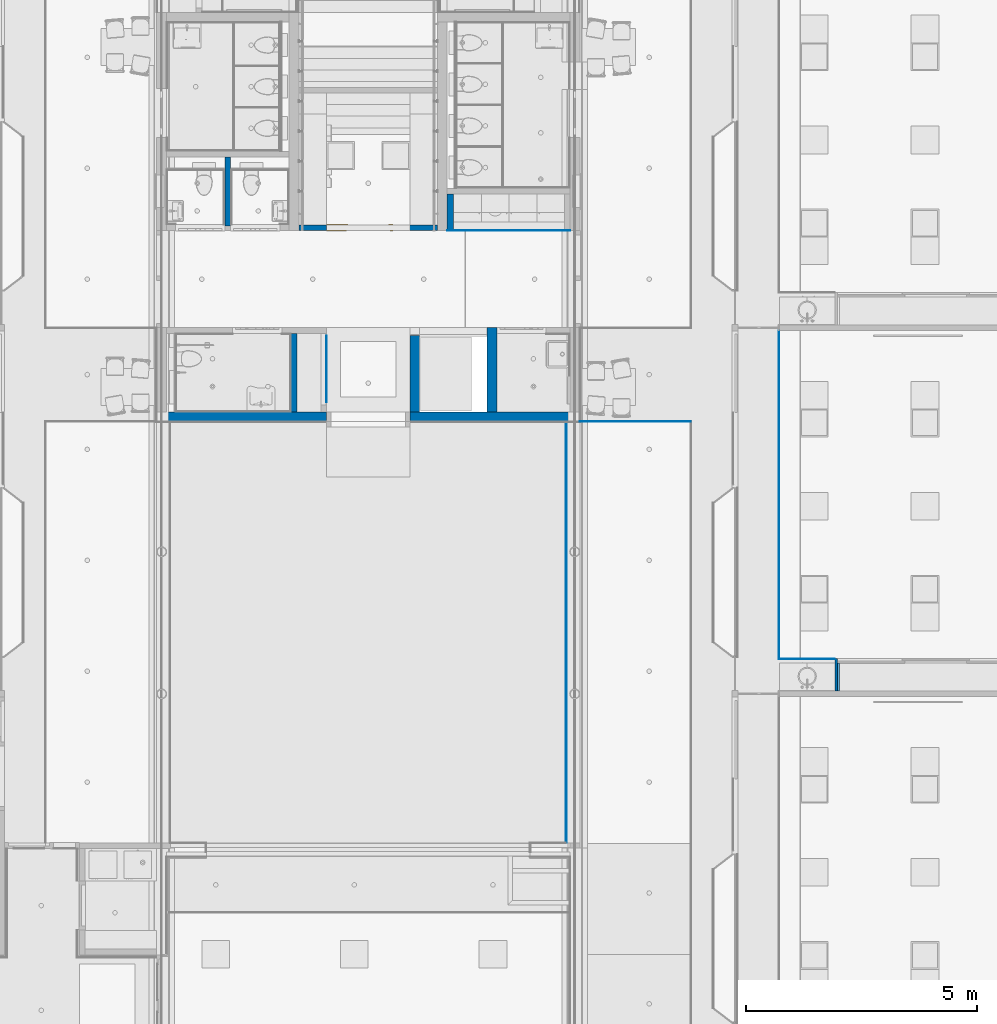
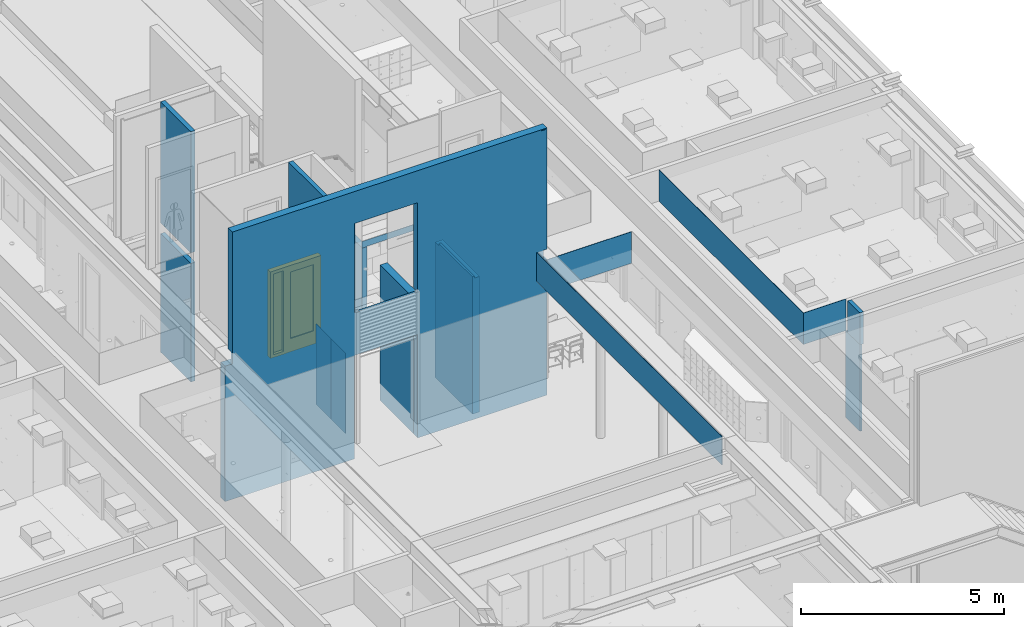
# One storey, part 75 of 347: 16 walls, 1 door, 3 openings.
"""IFC2X3 building model written with IfcOpenShell, lengths in millimetres."""

from ifc_helpers import new_model, entity, si_unit, converted_unit, derived_unit, money_unit, direction, frame, origin_with_axes, place, context, subcontext, project, spatial, open_shell, faceted_brep, surface_model, material, type_object, element, fill, save


model = new_model("IFC2X3")

# Units and contexts
model_context = context("Model", 3, precision=0.01, world=origin_with_axes(), true_north=direction((0.0, 1.0)))
plan_context = context("Plan", 3, precision=0.01, world=origin_with_axes(), true_north=direction((0.0, 1.0)))
body_context = subcontext(model_context, "Body", "Model", "MODEL_VIEW")
ifc_project = project(units=[si_unit("LENGTHUNIT", "METRE", prefix="MILLI"), si_unit("AREAUNIT", "SQUARE_METRE"), si_unit("VOLUMEUNIT", "CUBIC_METRE"), converted_unit("PLANEANGLEUNIT", "DEGREE", entity("IfcPlaneAngleMeasure", 0.0174532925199), si_unit("PLANEANGLEUNIT", "RADIAN"), dimensions=[0, 0, 0, 0, 0, 0, 0]), money_unit("EUR"), converted_unit("TIMEUNIT", "Year", entity("IfcTimeMeasure", 31556926.0), si_unit("TIMEUNIT", "SECOND"), dimensions=[0, 0, 1, 0, 0, 0, 0]), si_unit("MASSUNIT", "GRAM", prefix="KILO"), si_unit("THERMODYNAMICTEMPERATUREUNIT", "DEGREE_CELSIUS"), si_unit("LUMINOUSINTENSITYUNIT", "LUMEN"), si_unit("ENERGYUNIT", "JOULE", prefix="MEGA"), derived_unit("THERMALCONDUCTANCEUNIT", [(si_unit("POWERUNIT", "WATT"), 1), (si_unit("LENGTHUNIT", "METRE"), -1), (si_unit("THERMODYNAMICTEMPERATUREUNIT", "KELVIN"), -1)]), derived_unit("SPECIFICHEATCAPACITYUNIT", [(si_unit("ENERGYUNIT", "JOULE"), 1), (si_unit("MASSUNIT", "GRAM", prefix="KILO"), -1), (si_unit("THERMODYNAMICTEMPERATUREUNIT", "KELVIN"), -1)]), derived_unit("MASSDENSITYUNIT", [(si_unit("MASSUNIT", "GRAM", prefix="KILO"), 1), (si_unit("VOLUMEUNIT", "CUBIC_METRE"), -1)])], contexts=[model_context, plan_context])

# Site, building, storey
site_placement = place(None, origin_with_axes())
site = spatial("IfcSite", under=ifc_project, at=site_placement, Name="Site", CompositionType="ELEMENT")
building_placement = place(site_placement, origin_with_axes())
building = spatial("IfcBuilding", under=site, at=building_placement, Name="Naam gebouw", CompositionType="ELEMENT")
storey_placement = place(building_placement, origin_with_axes())
storey = spatial("IfcBuildingStorey", under=building, at=storey_placement, Name="begane grond", CompositionType="ELEMENT", Elevation=0.0)

# Walls
ifc_material_1 = material(Name="Beton gewapend prefab wand")
wall_type_1 = type_object("IfcWallType", Name="Betonwand 200 210", PredefinedType="NOTDEFINED")
wall_1_placement = place(storey_placement, frame((40975.0, 25940.0, -510.0), z_axis=(0.0, 0.0, 1.0), x_axis=(0.0, 1.0, 0.0)))
element("IfcWall", 1, at=wall_1_placement, inside=storey, type_object=wall_type_1, material=ifc_material_1, Name="22_GF 125 ECO DGS/2.75.2A", context=body_context, shape_type="Brep", body=[
    faceted_brep([(210.0, -210.0, 4070.0), (1860.00000268, -210.0, 4070.0), (1860.00000268, 0.0, 4070.0), (210.0, 0.0, 4070.0), (210.0, -210.0, 0.0), (1860.00000268, -210.0, 0.0), (1860.00000268, 0.0, 0.0), (210.0, 0.0, 0.0)], [[[0, 1, 2, 3]], [[4, 5, 1, 0]], [[2, 1, 5, 6]], [[3, 2, 6, 7]], [[4, 0, 3, 7]], [[7, 6, 5, 4]]]),
])
wall_2_placement = place(storey_placement, frame((42857.0, 25940.0, -510.0), z_axis=(0.0, 0.0, 1.0), x_axis=(0.0, 1.0, 0.0)))
element("IfcWall", 2, at=wall_2_placement, inside=storey, type_object=wall_type_1, material=ifc_material_1, Name="22_GF 125 ECO DGS/2.75.2A", context=body_context, shape_type="Brep", body=[
    faceted_brep([(2035.0, 210.0, 510.0), (2035.0, 210.0, 4070.0), (2035.0, 0.0, 4070.0), (2035.0, 0.0, 510.0), (2035.0, 0.0, 0.0), (2035.0, 210.0, 0.0), (1860.00000983, 210.0, 4130.0), (1860.00000983, 210.0, 4070.0), (210.0, 210.0, 0.0), (210.0, 210.0, 4130.0), (210.0, 0.0, 4070.0), (1860.00000983, 149.999885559, 4070.0), (210.0, 149.999885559, 4070.0), (210.0, 0.0, 0.0), (1860.00000983, 149.999885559, 4130.0), (210.0, 149.999885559, 4130.0)], [[[0, 1, 2, 3, 4, 5]], [[6, 7, 1, 0, 5, 8, 9]], [[10, 2, 1, 7, 11, 12]], [[3, 2, 10, 13, 4]], [[13, 8, 5, 4]], [[7, 6, 14, 11]], [[10, 12, 15, 9, 8, 13]], [[15, 14, 6, 9]], [[12, 11, 14, 15]]]),
])

# Wall, openings
wall_3_placement = place(storey_placement, frame((35705.0, 25940.0, -510.0), z_axis=(0.0, 0.0, 1.0), x_axis=(1.0, 0.0, 0.0)))
wall_3 = element("IfcWall", 3, at=wall_3_placement, inside=storey, type_object=wall_type_1, material=ifc_material_1, Name="22_GF 125 ECO DGS/2.75.2A", context=body_context, shape_type="Brep", body=[
    faceted_brep([(3560.0, 0.0, 3110.0), (5180.0, 0.0, 3110.0), (5270.0, 0.0, 3110.0), (5270.0, 0.0, 510.0), (5270.0, 0.0, 440.0), (5270.0, 0.0, 0.0), (8950.0, 0.0, 0.0), (8950.0, 0.0, 4070.0), (8850.0, 0.0, 4070.0), (8850.0, 0.0, 4390.0), (8950.0, 0.0, 4390.0), (8950.0, 0.0, 8030.0), (0.0, 0.0, 8030.0), (0.0, 0.0, 4070.0), (-210.0, 0.0, 4070.0), (-210.0, 0.0, 0.0), (3470.0, 0.0, 0.0), (3470.0, 0.0, 440.0), (3470.0, 0.0, 510.0), (3470.0, 0.0, 3110.0), (8895.0, 0.0, 8010.0), (8895.0, 0.0, 7994.71958232), (8785.0, 0.0, 7994.71958232), (8785.0, 0.0, 8010.0), (3470.0, 0.0, 4390.0), (3470.0, 0.0, 7070.0), (5270.0, 0.0, 7070.0), (5270.0, 0.0, 4390.0), (3470.0, 210.0, 3110.0), (5270.0, 210.0, 3110.0), (5270.0, 210.0, 510.0), (5270.0, 210.0, 440.0), (5270.0, 210.0, 0.0), (8950.0, 210.0, 0.0), (8950.0, 210.0, 4070.0), (8850.0, 210.0, 4070.0), (8850.0, 210.0, 4390.0), (8950.0, 210.0, 4390.0), (8950.0, 210.0, 8030.0), (0.0, 210.0, 8030.0), (0.0, 210.0, 4390.0), (0.0, 60.0, 4390.0), (0.0, 60.0, 4070.0), (5419.99999464, 60.0, 4070.0), (5419.99999464, 210.0, 4070.0), (-210.0, 210.0, 4070.0), (-210.0, 210.0, 0.0), (3470.0, 210.0, 0.0), (3470.0, 210.0, 440.0), (3470.0, 210.0, 510.0), (8895.0, 15.8233357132, 8010.0), (8785.0, 15.8233357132, 8010.0), (3470.0, 210.0, 4470.0), (3470.0, 210.0, 6995.71871781), (3470.0, 25.0, 6995.71871781), (3470.0, 25.0, 7070.0), (3470.0, 60.0, 4390.0), (3470.0, 60.0, 4470.0), (5270.0, 25.0, 7070.0), (5270.0, 25.0, 6995.71871781), (5270.0, 210.0, 6995.71871781), (5270.0, 210.0, 4470.0), (5270.0, 60.0, 4470.0), (5270.0, 60.0, 4390.0), (3470.0, 210.0, 4390.0), (5419.99999464, 210.0, 4390.0), (5270.0, 210.0, 4390.0), (5270.0, 210.0, 7070.71871781), (3470.0, 210.0, 7070.71871781), (7002.00011444, 210.0, 4390.0), (7002.00011444, 210.0, 4070.0), (8840.0, 210.0, 4070.0), (8840.0, 210.0, 4390.0), (5419.99999464, 60.0, 4390.0), (3470.0, 25.0, 7070.71871781), (5270.0, 25.0, 7070.71871781), (7002.00011444, 60.0, 4070.0), (7002.00011444, 60.0, 4390.0), (8840.0, 60.0, 4070.0), (8840.0, 60.0, 4390.0)], [[[0, 1, 2, 3, 4, 5, 6, 7, 8, 9, 10, 11, 12, 13, 14, 15, 16, 17, 18, 19], [20, 21, 22, 23], [24, 25, 26, 27]], [[1, 0, 19, 28, 29, 2]], [[3, 2, 29, 30]], [[30, 31, 4, 3]], [[31, 32, 5, 4]], [[6, 5, 32, 33]], [[33, 34, 7, 6]], [[8, 7, 34, 35]], [[8, 35, 36, 9]], [[9, 36, 37, 10]], [[11, 10, 37, 38]], [[11, 38, 39, 12]], [[12, 39, 40, 41, 42, 13]], [[13, 42, 43, 44, 45, 14]], [[46, 15, 14, 45]], [[46, 47, 16, 15]], [[17, 16, 47, 48]], [[49, 18, 17, 48]], [[49, 28, 19, 18]], [[50, 21, 20]], [[21, 50, 51, 22]], [[51, 23, 22]], [[51, 50, 20, 23]], [[52, 53, 54, 55, 25, 24, 56, 57]], [[55, 58, 26, 25]], [[59, 60, 61, 62, 63, 27, 26, 58]], [[63, 56, 24, 27]], [[53, 52, 64, 40, 39, 38, 37, 36, 35, 34, 33, 32, 31, 30, 29, 28, 49, 48, 47, 46, 45, 44, 65, 66, 61, 60, 67, 68], [69, 70, 71, 72]], [[40, 64, 56, 41]], [[56, 63, 73, 43, 42, 41]], [[73, 65, 44, 43]], [[54, 53, 68, 74, 55]], [[57, 56, 64, 52]], [[58, 55, 74, 75]], [[59, 58, 75, 67, 60]], [[62, 61, 66, 63]], [[73, 63, 66, 65]], [[68, 67, 75, 74]], [[76, 70, 69, 77]], [[78, 71, 70, 76]], [[79, 72, 71, 78]], [[77, 69, 72, 79]], [[79, 78, 76, 77]]]),
])
opening_1_placement = place(wall_3_placement, frame((4370.0, 0.0, 440.0), z_axis=(0.0, 0.0, 1.0), x_axis=(1.0, 0.0, 0.0)))
element("IfcOpeningElement", 4, at=opening_1_placement, cuts=wall_3, Name="32_-", context=body_context, shape_type="Brep", body=[
    faceted_brep([(-900.0, -420.0, 0.0), (-900.0, -420.0, 2670.0), (-900.0, 210.0, 2670.0), (-900.0, 210.0, 0.0), (900.0, -420.0, 0.0), (900.0, -420.0, 2670.0), (900.0, 210.0, 2670.0), (900.0, 210.0, 0.0)], [[[0, 1, 2, 3]], [[0, 4, 5, 1]], [[1, 5, 6, 2]], [[3, 2, 6, 7]], [[4, 0, 3, 7]], [[5, 4, 7, 6]]]),
])
opening_2_placement = place(wall_3_placement, frame((4370.0, 0.0, 4390.0), z_axis=(0.0, 0.0, 1.0), x_axis=(1.0, 0.0, 0.0)))
element("IfcOpeningElement", 5, at=opening_2_placement, cuts=wall_3, Name="32_-", context=body_context, shape_type="Brep", body=[
    faceted_brep([(-900.0, -420.0, 0.0), (-900.0, -420.0, 2680.0), (-900.0, 210.0, 2680.0), (-900.0, 210.0, 0.0), (900.0, -420.0, 0.0), (900.0, -420.0, 2680.0), (900.0, 210.0, 2680.0), (900.0, 210.0, 0.0)], [[[0, 1, 2, 3]], [[0, 4, 5, 1]], [[1, 5, 6, 2]], [[3, 2, 6, 7]], [[4, 0, 3, 7]], [[5, 4, 7, 6]]]),
])

# Walls
ifc_material_2 = material(Name="ALG - LICHTE SCHEIDINGSWAND")
wall_type_2 = type_object("IfcWallType", Name="ALG LSW 125 125", PredefinedType="NOTDEFINED")
wall_4_placement = place(storey_placement, frame((37035.0, 31789.9999277, 0.0), z_axis=(0.0, 0.0, 1.0), x_axis=(0.0, -1.0, 0.0)))
element("IfcWall", 6, at=wall_4_placement, inside=storey, type_object=wall_type_2, material=ifc_material_2, Name="22_GF 125 ECO DGS/2.75.2A", context=body_context, shape_type="Brep", body=[
    faceted_brep([(125.0, -62.5, 0.0), (125.0, -62.5, 3560.0), (125.0, 62.5, 3560.0), (125.0, 62.5, 0.0), (1615.0, -62.5, 0.0), (1615.0, -62.5, 3560.0), (1615.0, 62.5, 3560.0), (1615.0, 62.5, 0.0)], [[[0, 1, 2, 3]], [[4, 5, 1, 0]], [[5, 6, 2, 1]], [[3, 2, 6, 7]], [[0, 3, 7, 4]], [[7, 6, 5, 4]]]),
    faceted_brep([(1615.0, 62.5, 7520.0), (1615.0, 62.5, 3880.0), (125.0, 62.5, 3880.0), (125.0, 62.5, 7520.0), (1615.0, -62.5, 7520.0), (1615.0, -62.5, 3880.0), (125.0, -62.5, 3880.0), (125.0, -62.5, 7520.0)], [[[0, 1, 2, 3]], [[4, 5, 1, 0]], [[5, 6, 2, 1]], [[3, 2, 6, 7]], [[3, 7, 4, 0]], [[7, 6, 5, 4]]]),
])
wall_5_placement = place(storey_placement, frame((38405.0, 25940.0, 0.0), z_axis=(0.0, 0.0, 1.0), x_axis=(0.0, 1.0, 0.0)))
element("IfcWall", 7, at=wall_5_placement, inside=storey, type_object=wall_type_2, material=ifc_material_2, Name="22_GF 125 ECO DGS/2.75.2A", context=body_context, shape_type="Brep", body=[
    faceted_brep([(1910.0, 0.0, 0.0), (1910.0, 0.0, 3560.0), (1910.0, -125.0, 3560.0), (1910.0, -125.0, 0.0), (210.0, 0.0, 0.0), (210.0, 0.0, 3560.0), (210.0, -125.0, 3560.0), (210.0, -125.0, 0.0)], [[[0, 1, 2, 3]], [[4, 5, 1, 0]], [[5, 6, 2, 1]], [[3, 2, 6, 7]], [[4, 0, 3, 7]], [[7, 6, 5, 4]]]),
    faceted_brep([(210.0, -125.0, 7520.0), (210.0, -125.0, 3880.0), (1910.0, -125.0, 3880.0), (1910.0, -125.0, 7520.0), (210.0, 0.0, 7520.0), (210.0, 0.0, 3880.0), (1910.0, 0.0, 3880.0), (1910.0, 0.0, 7520.0)], [[[0, 1, 2, 3]], [[4, 5, 1, 0]], [[5, 6, 2, 1]], [[3, 2, 6, 7]], [[0, 3, 7, 4]], [[7, 6, 5, 4]]]),
])

# Wall, opening, door
wall_6_placement = place(storey_placement, frame((38575.0, 30074.9999277, 0.0), z_axis=(0.0, 0.0, 1.0), x_axis=(1.0, 0.0, 0.0)))
wall_6 = element("IfcWall", 8, at=wall_6_placement, inside=storey, type_object=wall_type_2, material=ifc_material_2, Name="22_GF 125 ECO DGS/2.75.2A", context=body_context, shape_type="Brep", body=[
    faceted_brep([(600.0, 0.0, 2600.0), (600.0, 125.0, 2600.0), (600.0, 125.0, 2612.0), (600.0, 0.0, 2612.0), (600.0, 125.0, 0.0), (600.0, 0.0, 0.0), (2032.10244198, 125.0, 0.0), (2032.10244198, 125.0, 2600.0), (2400.0, 125.0, 2600.0), (2400.0, 125.0, 2612.0), (0.0, 125.0, 0.0), (0.0, 125.0, 3560.0), (3000.0, 125.0, 3560.0), (3000.0, 125.0, 0.0), (2400.0, 0.0, 2612.0), (2032.10244198, 0.0, 2600.0), (2032.10244198, 0.0, 0.0), (3000.0, 0.0, 0.0), (3000.0, 0.0, 3560.0), (0.0, 0.0, 3560.0), (0.0, 0.0, 0.0), (2400.0, 0.0, 2600.0)], [[[0, 1, 2, 3]], [[4, 1, 0, 5]], [[6, 7, 8, 9, 2, 1, 4, 10, 11, 12, 13]], [[2, 9, 14, 3]], [[15, 16, 17, 18, 19, 20, 5, 0, 3, 14, 21]], [[4, 5, 20, 10]], [[15, 7, 6, 16]], [[7, 15, 21, 8]], [[9, 8, 21, 14]], [[20, 19, 11, 10]], [[12, 11, 19, 18]], [[12, 18, 17, 13]], [[16, 6, 13, 17]]]),
])
opening_3_placement = place(wall_6_placement, frame((1316.05122099, 0.0, 0.0), z_axis=(0.0, 0.0, 1.0), x_axis=(1.0, 0.0, 0.0)))
opening_3 = element("IfcOpeningElement", 9, at=opening_3_placement, cuts=wall_6, Name="32_04.07", context=body_context, shape_type="Brep", body=[
    faceted_brep([(-716.05122099, 125.0, 2600.0), (-716.05122099, 125.0, 0.0), (-716.05122099, -257.0, 0.0), (-716.05122099, -257.0, 2600.0), (716.05122099, 125.0, 2600.0), (716.05122099, 125.0, 0.0), (716.05122099, -257.0, 0.0), (716.05122099, -257.0, 2600.0)], [[[0, 1, 2, 3]], [[0, 4, 5, 1]], [[1, 5, 6, 2]], [[3, 2, 6, 7]], [[4, 0, 3, 7]], [[5, 4, 7, 6]]]),
])
door_style = type_object("IfcDoorStyle", Name="D1 zl1-a 25", ConstructionType="NOTDEFINED", OperationType="SINGLE_SWING_RIGHT", ParameterTakesPrecedence=False, Sizeable=False)
door_placement = place(opening_3_placement, frame((716.05122099, 0.0, 0.0), z_axis=(0.0, 0.0, 1.0), x_axis=(-1.0, 0.0, 0.0)))
door = element("IfcDoor", 10, at=door_placement, inside=storey, type_object=door_style, Name="32_04.07", ObjectType="DOOR", OverallHeight=2600.0, OverallWidth=1432.1, context=body_context, shape_type="SurfaceModel", body=[
    faceted_brep([(90.0, -53.0, 0.0), (90.0, -53.0, 2510.0), (90.0, -132.0, 2510.0), (90.0, -132.0, 0.0), (65.0, -53.0, 2510.0), (65.0, -53.0, 0.0), (65.0, 7.0, 2510.0), (0.0, 7.0, 2510.0), (0.0, -132.0, 2510.0), (0.0, -132.0, 0.0), (0.0, 7.0, 0.0), (65.0, 7.0, 0.0)], [[[0, 1, 2, 3]], [[4, 1, 0, 5]], [[4, 6, 7, 8, 2, 1]], [[3, 2, 8, 9]], [[5, 0, 3, 9, 10, 11]], [[6, 4, 5, 11]], [[6, 11, 10, 7]], [[10, 9, 8, 7]]]),
    faceted_brep([(1432.10244198, 7.0, 0.0), (1432.10244198, 7.0, 2510.0), (1432.10244198, -132.0, 2510.0), (1432.10244198, -132.0, 0.0), (1342.10244198, 7.0, 0.0), (1342.10244198, 7.0, 90.0), (1342.10244198, 7.0, 2510.0), (1342.10244198, -132.0, 2510.0), (1342.10244198, -132.0, 90.0), (1342.10244198, -132.0, 0.0)], [[[0, 1, 2, 3]], [[0, 4, 5, 6, 1]], [[1, 6, 7, 2]], [[3, 2, 7, 8, 9]], [[4, 0, 3, 9]], [[5, 4, 9, 8]], [[6, 5, 8, 7]]]),
    faceted_brep([(999.0, -53.0, 2510.0), (974.0, -53.0, 2510.0), (974.0, -132.0, 2510.0), (1064.0, -132.0, 2510.0), (1064.0, 7.0, 2510.0), (999.0, 7.0, 2510.0), (999.0, -53.0, 0.0), (974.0, -53.0, 0.0), (974.0, -132.0, 0.0), (1064.0, -132.0, 0.0), (1064.0, -132.0, 90.0), (1064.0, 7.0, 90.0), (999.0, 7.0, 0.0), (1064.0, 7.0, 0.0)], [[[0, 1, 2, 3, 4, 5]], [[1, 0, 6, 7]], [[1, 7, 8, 2]], [[8, 9, 10, 3, 2]], [[4, 3, 10, 11]], [[12, 5, 4, 11, 13]], [[0, 5, 12, 6]], [[6, 12, 13, 9, 8, 7]], [[11, 10, 9, 13]]]),
    faceted_brep([(1064.0, 7.0, 90.0), (1064.0, 7.0, 0.0), (1064.0, -132.0, 0.0), (1064.0, -132.0, 90.0), (1342.10244198, 7.0, 90.0), (1342.10244198, 7.0, 0.0), (1342.10244198, -132.0, 0.0), (1342.10244198, -132.0, 90.0)], [[[0, 1, 2, 3]], [[0, 4, 5, 1]], [[1, 5, 6, 2]], [[3, 2, 6, 7]], [[4, 0, 3, 7]], [[5, 4, 7, 6]]]),
    faceted_brep([(65.0, 7.0, 2535.0), (65.0, 7.0, 2510.0), (0.0, 7.0, 2510.0), (0.0, 7.0, 2600.0), (1432.10244198, 7.0, 2600.0), (1432.10244198, 7.0, 2510.0), (1342.10244198, 7.0, 2510.0), (1064.0, 7.0, 2510.0), (999.0, 7.0, 2510.0), (999.0, 7.0, 2535.0), (65.0, -53.0, 2535.0), (65.0, -53.0, 2510.0), (90.0, -53.0, 2510.0), (90.0, -132.0, 2510.0), (0.0, -132.0, 2510.0), (0.0, -132.0, 2600.0), (1432.10244198, -132.0, 2600.0), (1432.10244198, -132.0, 2510.0), (1342.10244198, -132.0, 2510.0), (999.0, -53.0, 2510.0), (1064.0, -132.0, 2510.0), (974.0, -132.0, 2510.0), (974.0, -53.0, 2510.0), (999.0, -53.0, 2535.0)], [[[0, 1, 2, 3, 4, 5, 6, 7, 8, 9]], [[1, 0, 10, 11]], [[11, 12, 13, 14, 2, 1]], [[2, 14, 15, 3]], [[3, 15, 16, 4]], [[4, 16, 17, 5]], [[5, 17, 18, 6]], [[19, 8, 7, 6, 18, 20, 21, 22]], [[9, 8, 19, 23]], [[0, 9, 23, 10]], [[19, 22, 12, 11, 10, 23]], [[12, 22, 21, 13]], [[18, 17, 16, 15, 14, 13, 21, 20]]]),
    faceted_brep([(999.0, 1.0, 400.0), (999.0, -53.0, 400.0), (859.0, -53.0, 400.0), (859.0, 1.0, 400.0), (999.0, 1.0, 2395.0), (999.0, -53.0, 2395.0), (859.0, -53.0, 2395.0), (859.0, 1.0, 2395.0)], [[[0, 1, 2, 3]], [[4, 5, 1, 0]], [[1, 5, 6, 2]], [[3, 2, 6, 7]], [[0, 3, 7, 4]], [[7, 6, 5, 4]]]),
    faceted_brep([(65.0, 1.0, 400.0), (65.0, -53.0, 400.0), (65.0, -53.0, 2395.0), (65.0, 1.0, 2395.0), (205.0, 1.0, 400.0), (205.0, -53.0, 400.0), (205.0, -53.0, 2395.0), (205.0, 1.0, 2395.0)], [[[0, 1, 2, 3]], [[4, 5, 1, 0]], [[1, 5, 6, 2]], [[3, 2, 6, 7]], [[0, 3, 7, 4]], [[7, 6, 5, 4]]]),
    faceted_brep([(999.0, 1.0, 0.0), (999.0, -53.0, 0.0), (65.0, -53.0, 0.0), (65.0, 1.0, 0.0), (999.0, 1.0, 400.0), (999.0, -53.0, 400.0), (859.0, -53.0, 400.0), (205.0, -53.0, 400.0), (65.0, -53.0, 400.0), (65.0, 1.0, 400.0), (205.0, 1.0, 400.0), (859.0, 1.0, 400.0)], [[[0, 1, 2, 3]], [[4, 5, 1, 0]], [[1, 5, 6, 7, 8, 2]], [[3, 2, 8, 9]], [[0, 3, 9, 10, 11, 4]], [[11, 6, 5, 4]], [[10, 7, 6, 11]], [[9, 8, 7, 10]]]),
    faceted_brep([(999.0, 1.0, 2535.0), (999.0, -53.0, 2535.0), (999.0, -53.0, 2395.0), (999.0, 1.0, 2395.0), (65.0, 1.0, 2535.0), (65.0, -53.0, 2535.0), (65.0, -53.0, 2395.0), (205.0, -53.0, 2395.0), (859.0, -53.0, 2395.0), (859.0, 1.0, 2395.0), (205.0, 1.0, 2395.0), (65.0, 1.0, 2395.0)], [[[0, 1, 2, 3]], [[4, 5, 1, 0]], [[1, 5, 6, 7, 8, 2]], [[3, 2, 8, 9]], [[0, 3, 9, 10, 11, 4]], [[11, 6, 5, 4]], [[10, 7, 6, 11]], [[9, 8, 7, 10]]]),
    surface_model("IfcShellBasedSurfaceModel", [(859.0, -20.0, 400.0), (205.0, -20.0, 400.0), (205.0, -20.0, 2395.0), (859.0, -20.0, 2395.0)], [open_shell([[[0, 1, 2, 3]]])]),
    surface_model("IfcShellBasedSurfaceModel", [(859.0, -32.0, 400.0), (859.0, -32.0, 2395.0), (205.0, -32.0, 2395.0), (205.0, -32.0, 400.0)], [open_shell([[[0, 1, 2, 3]]])]),
    surface_model("IfcShellBasedSurfaceModel", [(1064.0, -72.0, 90.0), (1064.0, -72.0, 2510.0), (1342.10244198, -72.0, 2510.0), (1342.10244198, -72.0, 90.0)], [open_shell([[[0, 1, 2, 3]]])]),
    surface_model("IfcShellBasedSurfaceModel", [(1064.0, -84.0, 90.0), (1342.10244198, -84.0, 90.0), (1342.10244198, -84.0, 2510.0), (1064.0, -84.0, 2510.0)], [open_shell([[[0, 1, 2, 3]]])]),
])
fill(opening_3, door)

# Walls
wall_type_3 = type_object("IfcWallType", Name="44 koof 50", PredefinedType="NOTDEFINED")
wall_7_placement = place(storey_placement, frame((44355.0000042, 16825.0, 3000.0), z_axis=(0.0, 0.0, 1.0), x_axis=(-4.65677938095e-10, 1.0, 0.0)))
element("IfcWall", 11, at=wall_7_placement, inside=storey, type_object=wall_type_3, material=ifc_material_2, Name="21_22 betonwand", context=body_context, shape_type="Brep", body=[
    faceted_brep([(0.000945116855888, -12.0, 880.0), (0.000945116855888, -12.0, 12.0), (9114.99999999, -12.0000042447, 12.0), (9114.99999999, -12.0000042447, 880.0), (0.000945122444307, 0.0, 880.0), (0.000945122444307, 4.24464730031e-06, 12.0), (9115.0, 0.0, 12.0), (9115.0, -4.24465440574e-06, 880.0)], [[[0, 1, 2, 3]], [[4, 5, 1, 0]], [[5, 6, 2, 1]], [[3, 2, 6, 7]], [[0, 3, 7, 4]], [[7, 6, 5, 4]]]),
])
wall_8_placement = place(storey_placement, frame((41785.0, 30074.9998623, 2400.0), z_axis=(0.0, 0.0, 1.0), x_axis=(1.0, 0.0, 0.0)))
element("IfcWall", 12, at=wall_8_placement, inside=storey, type_object=wall_type_3, material=ifc_material_2, Name="21_22 betonwand", context=body_context, shape_type="Brep", body=[
    faceted_brep([(2540.0, 12.0, 12.0), (140.0, 12.0, 12.0), (140.0, 12.0, 0.0), (0.0, 12.0, 0.0), (0.0, 12.0, 200.0), (2660.0, 12.0, 200.0), (2660.0, 12.0, 0.0), (2540.0, 12.0, 0.0), (140.0, 0.0, 12.0), (2540.0, 0.0, 12.0), (140.0, 0.0, 0.0), (0.0, 0.0, 0.0), (0.0, 6.53397478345e-05, 200.0), (2660.0, 6.53397478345e-05, 200.0), (2660.0, 0.0, 0.0), (2540.0, 0.0, 0.0)], [[[0, 1, 2, 3, 4, 5, 6, 7]], [[8, 1, 0, 9]], [[10, 2, 1, 8]], [[3, 2, 10, 11]], [[11, 12, 4, 3]], [[12, 13, 5, 4]], [[6, 5, 13, 14]], [[14, 15, 7, 6]], [[9, 0, 7, 15]], [[8, 9, 15, 14, 13, 12, 11, 10]]]),
])
wall_9_placement = place(storey_placement, frame((44654.9999452, 25940.0001323, 2600.0), z_axis=(0.0, 0.0, 1.0), x_axis=(1.0, 0.0, 0.0)))
element("IfcWall", 13, at=wall_9_placement, inside=storey, type_object=wall_type_3, material=ifc_material_2, Name="21_22 betonwand", context=body_context, shape_type="Brep", body=[
    faceted_brep([(2400.00005485, 0.0, 960.0), (2400.00005485, 0.0, 12.0), (2400.00005485, 12.0, 12.0), (2400.00005485, 12.0, 960.0), (0.0, 0.0, 960.0), (7.31387999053e-05, 0.0, 12.0), (7.31387999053e-05, 12.0, 12.0), (0.0, 12.0, 960.0)], [[[0, 1, 2, 3]], [[4, 5, 1, 0]], [[5, 6, 2, 1]], [[3, 2, 6, 7]], [[4, 0, 3, 7]], [[7, 6, 5, 4]]]),
])
wall_10_placement = place(storey_placement, frame((48975.0, 20812.5, 2600.0), z_axis=(0.0, 0.0, 1.0), x_axis=(0.0, 1.0, 0.0)))
element("IfcWall", 14, at=wall_10_placement, inside=storey, type_object=wall_type_3, material=ifc_material_2, Name="21_22 betonwand", context=body_context, shape_type="Brep", body=[
    faceted_brep([(-12.0, -1.27897692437e-10, 960.0), (-12.0, -1.27897692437e-10, 12.0), (7100.0, 7.63051843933e-08, 12.0), (7100.0, 7.63051843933e-08, 960.0), (-12.0000000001, 11.9999999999, 960.0), (-12.0000000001, 11.9999999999, 12.0), (7100.0, 12.0000000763, 12.0), (7100.0, 12.0000000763, 960.0)], [[[0, 1, 2, 3]], [[4, 5, 1, 0]], [[5, 6, 2, 1]], [[3, 2, 6, 7]], [[0, 3, 7, 4]], [[7, 6, 5, 4]]]),
])
wall_11_placement = place(storey_placement, frame((50175.0, 20812.5, 2600.0), z_axis=(0.0, 0.0, 1.0), x_axis=(-1.0, 0.0, 0.0)))
element("IfcWall", 15, at=wall_11_placement, inside=storey, type_object=wall_type_3, material=ifc_material_2, Name="21_22 betonwand", context=body_context, shape_type="Brep", body=[
    faceted_brep([(0.0, 12.0, 960.000000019), (0.0, 12.0, 12.0), (0.0, 0.0, 12.0), (0.0, 0.0, 960.000000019), (1200.0, 12.0, 960.0), (1200.0, 12.0, 12.0), (1200.0, 0.0, 12.0), (1200.0, 0.0, 960.0)], [[[0, 1, 2, 3]], [[4, 5, 1, 0]], [[5, 6, 2, 1]], [[3, 2, 6, 7]], [[7, 4, 0, 3]], [[7, 6, 5, 4]]]),
])
ifc_material_3 = material(Name="32 schuideur")
wall_type_4 = type_object("IfcWallType", Name="32 schuideur 60", PredefinedType="NOTDEFINED")
wall_12_placement = place(storey_placement, frame((50235.0, 20050.0, 0.0), z_axis=(0.0, 0.0, 1.0), x_axis=(0.0, 1.0, 0.0)))
element("IfcWall", 16, at=wall_12_placement, inside=storey, type_object=wall_type_4, material=ifc_material_3, Name="22_GF 100 RD/2.50.2.", context=body_context, shape_type="Brep", body=[
    faceted_brep([(62.5, 60.0, 0.0), (762.5, 60.0, 0.0), (762.5, 0.0, 0.0), (62.5, 0.0, 0.0), (62.5, 60.0, 2600.0), (762.5, 60.0, 2600.0), (762.5, 0.0, 2600.0), (62.5, 0.0, 2600.0)], [[[0, 1, 2, 3]], [[4, 5, 1, 0]], [[2, 1, 5, 6]], [[3, 2, 6, 7]], [[4, 0, 3, 7]], [[7, 6, 5, 4]]]),
])
wall_type_5 = type_object("IfcWallType", Name="ALG LSW 100 kast 100", PredefinedType="NOTDEFINED")
wall_13_placement = place(storey_placement, frame((50175.0, 20050.0, 2600.0), z_axis=(0.0, 0.0, 1.0), x_axis=(0.0, 1.0, 0.0)))
element("IfcWall", 17, at=wall_13_placement, inside=storey, type_object=wall_type_5, material=ifc_material_2, Name="22_GF 125 ECO DGS/2.75.2A", context=body_context, shape_type="Brep", body=[
    faceted_brep([(662.5, -100.0, 960.0), (662.5, 0.0, 960.0), (62.5, 0.0, 960.0), (62.5, -100.0, 960.0), (662.5, -100.0, 0.0), (662.5, 0.0, 0.0), (62.5, 0.0, 0.0), (62.5, -100.0, 0.0)], [[[0, 1, 2, 3]], [[1, 0, 4, 5]], [[1, 5, 6, 2]], [[7, 3, 2, 6]], [[4, 0, 3, 7]], [[5, 4, 7, 6]]]),
])
ifc_material_4 = material(Name="Hout - Multiplex")
wall_type_6 = type_object("IfcWallType", Name="Hout - Multiplex 12", PredefinedType="NOTDEFINED")
for number, where, z_axis, x_axis in (
    (18, (39175.0, 27797.0, 0.0), (0.0, 0.0, 1.0), (0.0, -1.0, 0.0)),
    (19, (39175.0, 27076.5, 0.0), (0.0, 0.0, 1.0), (0.0, -1.0, 0.0)),
):
    element("IfcWall", number, at=place(storey_placement, frame(where, z_axis=z_axis, x_axis=x_axis)), inside=storey, type_object=wall_type_6, material=ifc_material_4, Name="22_GF 125 ECO DGS/2.75.2A", context=body_context, shape_type="Brep", body=[
        faceted_brep([(0.0, -12.0, 2422.0), (717.5, -12.0, 2422.0), (717.5, 0.0, 2422.0), (0.0, 0.0, 2422.0), (0.0, -12.0, 0.0), (717.5, -12.0, 0.0), (717.5, 0.0, 0.0), (0.0, 0.0, 0.0)], [[[0, 1, 2, 3]], [[4, 5, 1, 0]], [[2, 1, 5, 6]], [[3, 2, 6, 7]], [[4, 0, 3, 7]], [[7, 6, 5, 4]]]),
    ])
wall_type_7 = type_object("IfcWallType", Name="ALG - LICHTE SCHEIDINGSWAND 140", PredefinedType="NOTDEFINED")
wall_14_placement = place(storey_placement, frame((41925.0, 30074.9998623, 0.0), z_axis=(0.0, 0.0, 1.0), x_axis=(0.0, 1.0, 0.0)))
element("IfcWall", 20, at=wall_14_placement, inside=storey, type_object=wall_type_7, material=ifc_material_2, Name="22_GF 125 ECO DGS/2.75.2A", context=body_context, shape_type="Brep", body=[
    faceted_brep([(790.00006534, 140.0, 0.0), (790.00006534, 0.0, 0.0), (0.0, 0.0, 0.0), (0.0, 140.0, 0.0), (790.00006534, 140.0, 2400.0), (790.00006534, 0.0, 2400.0), (0.0, 0.0, 2400.0), (0.0, 140.0, 2400.0)], [[[0, 1, 2, 3]], [[1, 0, 4, 5]], [[1, 5, 6, 2]], [[7, 3, 2, 6]], [[4, 0, 3, 7]], [[5, 4, 7, 6]]]),
])

save(model, "model.ifc")
